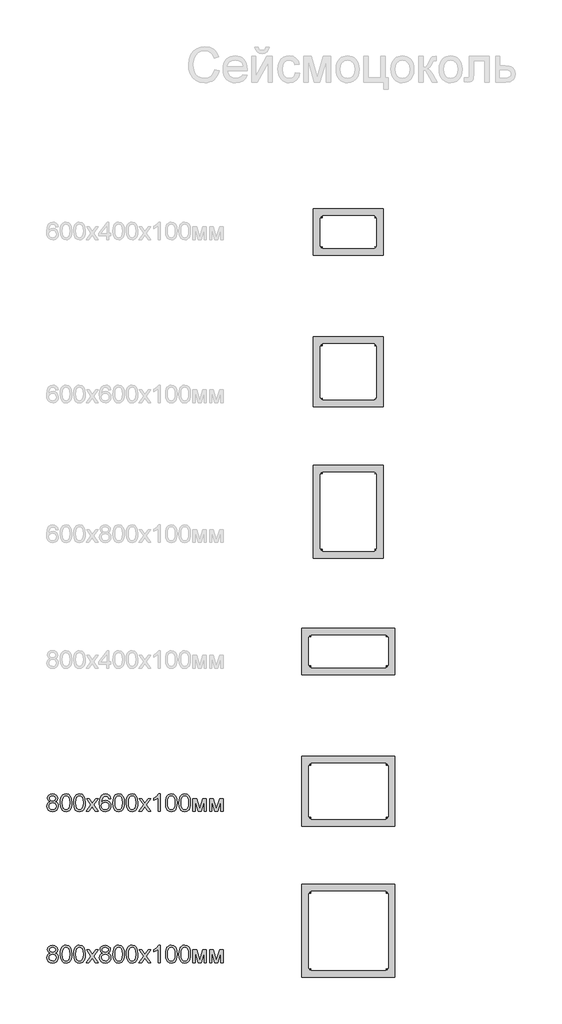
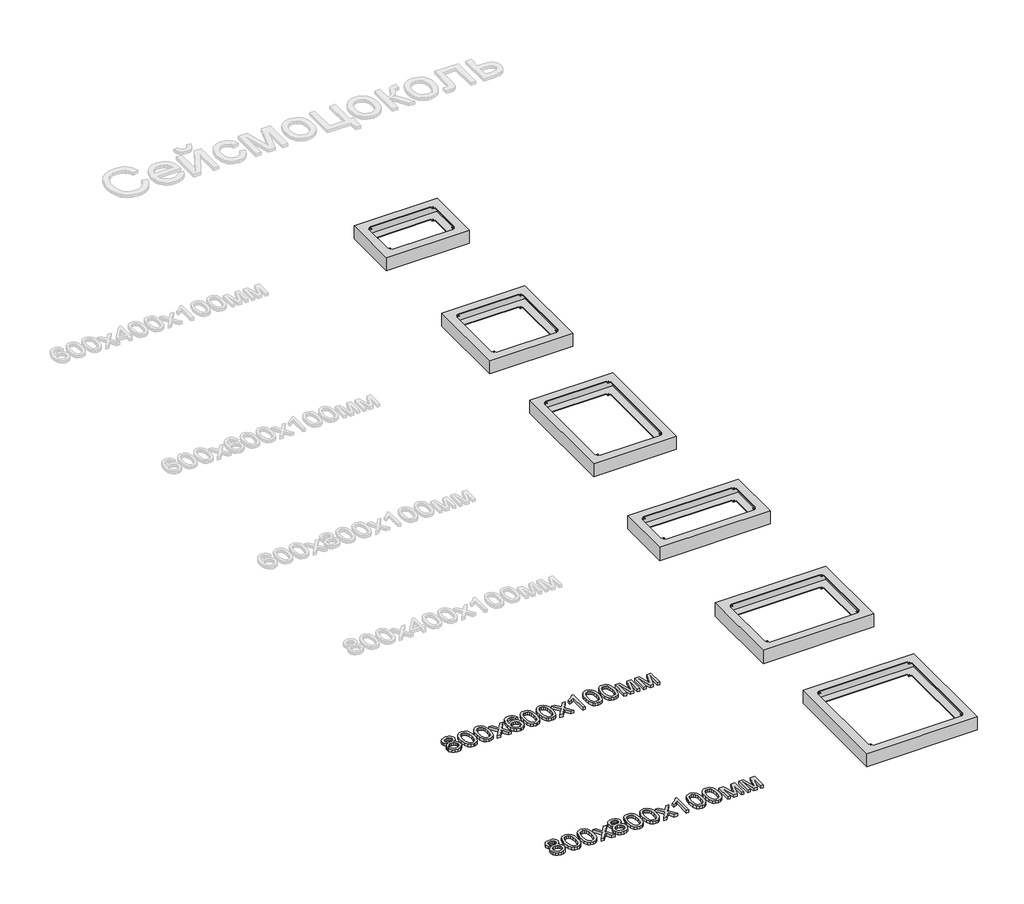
# One storey, part 1 of 3: 6 furniture elements, 2 proxies.
"""IFC4 building model written with IfcOpenShell, lengths in millimetres."""

from ifc_helpers import new_model, si_unit, origin, origin_with_axes, place, context, project, spatial, polyline, outline, extrude, transform, mapped, element, save
from components import furniture_c3a98835, furniture_9b10bd77, furniture_e79b8919, furniture_092bb3a8, furniture_30f0d79d, furniture_6f4ddcfb

model = new_model("IFC4")

# Units and contexts
model_context = context("Model", 3, world=origin())
ifc_project = project(units=[si_unit("LENGTHUNIT", "METRE", prefix="MILLI")], contexts=[model_context])

# Site, building, storey
site = spatial("IfcSite", under=ifc_project)
building = spatial("IfcBuilding", under=site)
storey = spatial("IfcBuildingStorey", under=building, Name="Этаж 01", Elevation=0.0)

# Proxies
placement = place(None, origin())
element("IfcBuildingElementProxy", 1, Name="150 мм Arial", ObjectType="150 мм Arial", at=placement, inside=storey, context=model_context, shape_type="SweptSolid", body=[
    extrude(outline(polyline([(-2956.1716896, -1958.5831547), (-2973.3333847, -1946.8845072), (-2978.9067969, -1928.6743485), (-2975.8717705, -1913.9498716), (-2966.7666911, -1901.7821746), (-2952.6124313, -1893.6151943), (-2934.4298637, -1890.8928676), (-2916.1369315, -1893.6795737), (-2901.7987307, -1902.039692), (-2892.5281045, -1914.4005271), (-2889.4378957, -1929.1893833), (-2894.9377315, -1946.9396895), (-2911.62118, -1958.5831547), (-2900.0282986, -1964.5566386), (-2891.5900054, -1973.3536168), (-2886.444256, -1984.551025), (-2884.7290062, -1997.725799), (-2888.1319146, -2015.7336226), (-2898.34064, -2030.6144493), (-2914.1043835, -2040.6024455), (-2934.1723463, -2043.9317776), (-2954.2403092, -2040.5886499), (-2970.0040527, -2030.559267), (-2980.212778, -2015.5358861), (-2983.6156865, -1997.2107642), (-2981.8314588, -1983.525554), (-2976.4787758, -1972.2683649), (-2967.8335489, -1963.8254731), (-2956.1716896, -1958.5831547)]), holes=[polyline([(-2960.0712388, -1929.2261715), (-2958.4019742, -1937.4483341), (-2953.3941806, -1944.0150277), (-2945.1950106, -1948.319247), (-2933.9516171, -1949.7539868), (-2922.9703396, -1948.3284441), (-2914.8953298, -1944.0518159), (-2909.9289228, -1937.7058515), (-2908.2734539, -1930.0723001), (-2909.9841051, -1922.1490416), (-2915.116059, -1915.5961436), (-2923.3014334, -1911.1953552), (-2934.1723463, -1909.7284257), (-2945.1122372, -1911.1631655), (-2953.283816, -1915.4673849), (-2958.3743831, -1921.7765611), (-2960.0712388, -1929.2261715)]), polyline([(-2964.7801283, -1996.5485766), (-2961.6347373, -2010.7304275), (-2950.5063069, -2021.3438231), (-2934.0251935, -2025.0962194), (-2921.204506, -2023.1234522), (-2911.5843918, -2017.2051506), (-2905.5695212, -2008.2426255), (-2903.5645643, -1997.1371878), (-2905.6339005, -1985.8432105), (-2911.8419092, -1976.6829489), (-2921.6827526, -1970.6128959), (-2934.6505929, -1968.589545), (-2947.291938, -1970.5853048), (-2956.8154831, -1976.5725843), (-2962.788967, -1985.558102), (-2964.7801283, -1996.5485766)])]), origin_with_axes(), (0.0, 0.0, 1.0), 20.0),
    extrude(outline(polyline([(-2868.2478928, -1967.4491108), (-2866.8637368, -1943.3298475), (-2862.7112688, -1924.0942176), (-2855.8318754, -1909.4479157), (-2846.2669436, -1899.0966361), (-2833.9474953, -1892.9438097), (-2818.8045526, -1890.8928676), (-2796.8052093, -1895.7489099), (-2781.6116829, -1909.7468198), (-2772.782515, -1932.0404687), (-2769.3612125, -1967.4491108), (-2770.7315729, -1991.4304183), (-2774.8426542, -2010.6200629), (-2781.6806608, -2025.2801604), (-2791.2317971, -2035.6728268), (-2803.5788366, -2041.8670399), (-2818.8045526, -2043.9317776), (-2838.3758748, -2040.3449281), (-2853.2383074, -2029.5843798), (-2864.4954964, -2004.0993545), (-2868.2478928, -1967.4491108)]), holes=[polyline([(-2849.4123346, -1967.4123226), (-2847.2050427, -1997.0406188), (-2840.5831667, -2014.1885183), (-2830.7239293, -2022.3692941), (-2818.8045526, -2025.0962194), (-2806.885176, -2022.3600971), (-2797.0259385, -2014.1517301), (-2790.4040626, -1996.9946335), (-2788.1967706, -1967.4123226), (-2790.3304862, -1938.4508125), (-2796.7316329, -1921.1695558), (-2806.5724763, -1912.5887082), (-2819.0252818, -1909.7284257), (-2830.8158998, -1912.2484174), (-2840.2888612, -1919.8083924), (-2847.1314663, -1938.165704), (-2849.4123346, -1967.4123226)])]), origin_with_axes(), (0.0, 0.0, 1.0), 20.0),
    extrude(outline(polyline([(-2752.8800991, -1967.4491108), (-2751.4959431, -1943.3298475), (-2747.3434751, -1924.0942176), (-2740.4640818, -1909.4479157), (-2730.8991499, -1899.0966361), (-2718.5797016, -1892.9438097), (-2703.4367589, -1890.8928676), (-2681.4374156, -1895.7489099), (-2666.2438892, -1909.7468198), (-2657.4147213, -1932.0404687), (-2653.9934188, -1967.4491108), (-2655.3637792, -1991.4304183), (-2659.4748605, -2010.6200629), (-2666.3128671, -2025.2801604), (-2675.8640034, -2035.6728268), (-2688.2110429, -2041.8670399), (-2703.4367589, -2043.9317776), (-2723.0080811, -2040.3449281), (-2737.8705137, -2029.5843798), (-2749.1277027, -2004.0993545), (-2752.8800991, -1967.4491108)]), holes=[polyline([(-2734.0445409, -1967.4123226), (-2731.837249, -1997.0406188), (-2725.2153731, -2014.1885183), (-2715.3561356, -2022.3692941), (-2703.4367589, -2025.0962194), (-2691.5173823, -2022.3600971), (-2681.6581448, -2014.1517301), (-2675.0362689, -1996.9946335), (-2672.8289769, -1967.4123226), (-2674.9626925, -1938.4508125), (-2681.3638392, -1921.1695558), (-2691.2046826, -1912.5887082), (-2703.6574881, -1909.7284257), (-2715.4481061, -1912.2484174), (-2724.9210675, -1919.8083924), (-2731.7636726, -1938.165704), (-2734.0445409, -1967.4123226)])]), origin_with_axes(), (0.0, 0.0, 1.0), 20.0),
    extrude(outline(polyline([(-2644.5756397, -2041.5773328), (-2604.3293494, -1985.9535751), (-2642.2211949, -1930.9184287), (-2619.559664, -1930.9184287), (-2601.2759289, -1957.4059323), (-2592.7410666, -1969.9139201), (-2585.3466385, -1959.6868007), (-2564.5245176, -1930.9184287), (-2541.8629867, -1930.9184287), (-2581.6678185, -1985.9535751), (-2543.3345146, -2041.5773328), (-2565.9960455, -2041.5773328), (-2589.0622466, -2008.1368594), (-2593.2928896, -2002.0300183), (-2621.9141088, -2041.5773328), (-2644.5756397, -2041.5773328)])), origin_with_axes(), (0.0, 0.0, 1.0), 20.0),
    extrude(outline(polyline([(-2435.0300553, -1930.9184287), (-2453.8656134, -1933.2728734), (-2461.0025241, -1917.5643122), (-2469.5465835, -1911.6873974), (-2479.8748705, -1909.7284257), (-2496.8710187, -1914.2901625), (-2509.7284944, -1931.4150693), (-2513.6326421, -1945.4451689), (-2515.0811774, -1964.9843014), (-2498.4713053, -1949.9563219), (-2477.8883077, -1945.0450973), (-2460.4874893, -1948.4020205), (-2445.8825741, -1958.4727901), (-2435.9773514, -1973.8594545), (-2432.6756105, -1993.1640622), (-2434.2299119, -2006.6515359), (-2438.8928162, -2019.1549252), (-2446.2780473, -2029.7591237), (-2455.999329, -2037.549025), (-2467.615203, -2042.3360894), (-2480.6842109, -2043.9317776), (-2502.0535563, -2039.7011346), (-2519.0726971, -2027.0092058), (-2530.2057259, -2004.6051923), (-2533.9167356, -1971.2382953), (-2529.7964572, -1933.7235289), (-2517.4356222, -1908.0729567), (-2500.5590357, -1895.1878899), (-2478.6976481, -1890.8928676), (-2462.1705495, -1893.550815), (-2448.9359947, -1901.5246572), (-2439.6653684, -1914.1889949), (-2435.0300553, -1930.9184287)]), holes=[polyline([(-2515.0811774, -1992.8697566), (-2510.7217758, -2009.1853231), (-2499.1334929, -2021.0311234), (-2482.1557388, -2025.0962194), (-2469.7259259, -2022.990095), (-2459.9540604, -2016.6717217), (-2453.6218916, -2006.7389079), (-2451.5111686, -1993.7894616), (-2453.5943004, -1981.3596487), (-2459.8436958, -1971.8820888), (-2469.7811082, -1965.8810138), (-2482.928291, -1963.8806554), (-2495.3397098, -1965.8810138), (-2505.7185806, -1971.8820888), (-2512.7405282, -1981.1297225), (-2515.0811774, -1992.8697566)])]), origin_with_axes(), (0.0, 0.0, 1.0), 20.0),
    extrude(outline(polyline([(-2416.1944971, -1967.4491108), (-2414.8103411, -1943.3298475), (-2410.6578731, -1924.0942176), (-2403.7784798, -1909.4479157), (-2394.2135479, -1899.0966361), (-2381.8940996, -1892.9438097), (-2366.751157, -1890.8928676), (-2344.7518136, -1895.7489099), (-2329.5582872, -1909.7468198), (-2320.7291194, -1932.0404687), (-2317.3078168, -1967.4491108), (-2318.6781772, -1991.4304183), (-2322.7892585, -2010.6200629), (-2329.6272651, -2025.2801604), (-2339.1784014, -2035.6728268), (-2351.5254409, -2041.8670399), (-2366.751157, -2043.9317776), (-2386.3224791, -2040.3449281), (-2401.1849117, -2029.5843798), (-2412.4421008, -2004.0993545), (-2416.1944971, -1967.4491108)]), holes=[polyline([(-2397.358939, -1967.4123226), (-2395.151647, -1997.0406188), (-2388.5297711, -2014.1885183), (-2378.6705336, -2022.3692941), (-2366.751157, -2025.0962194), (-2354.8317803, -2022.3600971), (-2344.9725428, -2014.1517301), (-2338.3506669, -1996.9946335), (-2336.143375, -1967.4123226), (-2338.2770905, -1938.4508125), (-2344.6782373, -1921.1695558), (-2354.5190806, -1912.5887082), (-2366.9718862, -1909.7284257), (-2378.7625041, -1912.2484174), (-2388.2354655, -1919.8083924), (-2395.0780706, -1938.165704), (-2397.358939, -1967.4123226)])]), origin_with_axes(), (0.0, 0.0, 1.0), 20.0),
    extrude(outline(polyline([(-2300.8267034, -1967.4491108), (-2299.4425474, -1943.3298475), (-2295.2900794, -1924.0942176), (-2288.4106861, -1909.4479157), (-2278.8457542, -1899.0966361), (-2266.5263059, -1892.9438097), (-2251.3833633, -1890.8928676), (-2229.38402, -1895.7489099), (-2214.1904936, -1909.7468198), (-2205.3613257, -1932.0404687), (-2201.9400231, -1967.4491108), (-2203.3103836, -1991.4304183), (-2207.4214648, -2010.6200629), (-2214.2594714, -2025.2801604), (-2223.8106077, -2035.6728268), (-2236.1576472, -2041.8670399), (-2251.3833633, -2043.9317776), (-2270.9546854, -2040.3449281), (-2285.817118, -2029.5843798), (-2297.0743071, -2004.0993545), (-2300.8267034, -1967.4491108)]), holes=[polyline([(-2281.9911453, -1967.4123226), (-2279.7838533, -1997.0406188), (-2273.1619774, -2014.1885183), (-2263.3027399, -2022.3692941), (-2251.3833633, -2025.0962194), (-2239.4639866, -2022.3600971), (-2229.6047492, -2014.1517301), (-2222.9828732, -1996.9946335), (-2220.7755813, -1967.4123226), (-2222.9092968, -1938.4508125), (-2229.3104436, -1921.1695558), (-2239.1512869, -1912.5887082), (-2251.6040925, -1909.7284257), (-2263.3947104, -1912.2484174), (-2272.8676718, -1919.8083924), (-2279.7102769, -1938.165704), (-2281.9911453, -1967.4123226)])]), origin_with_axes(), (0.0, 0.0, 1.0), 20.0),
    extrude(outline(polyline([(-2192.522244, -2041.5773328), (-2152.2759538, -1985.9535751), (-2190.1677993, -1930.9184287), (-2167.5062684, -1930.9184287), (-2149.2225332, -1957.4059323), (-2140.6876709, -1969.9139201), (-2133.2932428, -1959.6868007), (-2112.4711219, -1930.9184287), (-2089.809591, -1930.9184287), (-2129.6144229, -1985.9535751), (-2091.281119, -2041.5773328), (-2113.9426499, -2041.5773328), (-2137.008851, -2008.1368594), (-2141.2394939, -2002.0300183), (-2169.8607131, -2041.5773328), (-2192.522244, -2041.5773328)])), origin_with_axes(), (0.0, 0.0, 1.0), 20.0),
    extrude(outline(polyline([(-2008.8755521, -2041.5773328), (-2027.7111102, -2041.5773328), (-2027.7111102, -1924.1493999), (-2045.553387, -1936.8597229), (-2065.3822265, -1946.3694724), (-2065.3822265, -1928.5639839), (-2037.7726828, -1910.9424363), (-2021.0156579, -1890.8928676), (-2008.8755521, -1890.8928676), (-2008.8755521, -2041.5773328)])), origin_with_axes(), (0.0, 0.0, 1.0), 20.0),
    extrude(outline(polyline([(-1964.1411014, -1967.4491108), (-1962.7569454, -1943.3298475), (-1958.6044774, -1924.0942176), (-1951.7250841, -1909.4479157), (-1942.1601522, -1899.0966361), (-1929.8407039, -1892.9438097), (-1914.6977613, -1890.8928676), (-1892.698418, -1895.7489099), (-1877.5048916, -1909.7468198), (-1868.6757237, -1932.0404687), (-1865.2544211, -1967.4491108), (-1866.6247816, -1991.4304183), (-1870.7358629, -2010.6200629), (-1877.5738694, -2025.2801604), (-1887.1250057, -2035.6728268), (-1899.4720452, -2041.8670399), (-1914.6977613, -2043.9317776), (-1934.2690834, -2040.3449281), (-1949.131516, -2029.5843798), (-1960.3887051, -2004.0993545), (-1964.1411014, -1967.4491108)]), holes=[polyline([(-1945.3055433, -1967.4123226), (-1943.0982513, -1997.0406188), (-1936.4763754, -2014.1885183), (-1926.6171379, -2022.3692941), (-1914.6977613, -2025.0962194), (-1902.7783846, -2022.3600971), (-1892.9191472, -2014.1517301), (-1886.2972713, -1996.9946335), (-1884.0899793, -1967.4123226), (-1886.2236949, -1938.4508125), (-1892.6248416, -1921.1695558), (-1902.4656849, -1912.5887082), (-1914.9184905, -1909.7284257), (-1926.7091084, -1912.2484174), (-1936.1820698, -1919.8083924), (-1943.0246749, -1938.165704), (-1945.3055433, -1967.4123226)])]), origin_with_axes(), (0.0, 0.0, 1.0), 20.0),
    extrude(outline(polyline([(-1848.7733078, -1967.4491108), (-1847.3891517, -1943.3298475), (-1843.2366837, -1924.0942176), (-1836.3572904, -1909.4479157), (-1826.7923585, -1899.0966361), (-1814.4729102, -1892.9438097), (-1799.3299676, -1890.8928676), (-1777.3306243, -1895.7489099), (-1762.1370979, -1909.7468198), (-1753.30793, -1932.0404687), (-1749.8866274, -1967.4491108), (-1751.2569879, -1991.4304183), (-1755.3680692, -2010.6200629), (-1762.2060758, -2025.2801604), (-1771.7572121, -2035.6728268), (-1784.1042515, -2041.8670399), (-1799.3299676, -2043.9317776), (-1818.9012897, -2040.3449281), (-1833.7637223, -2029.5843798), (-1845.0209114, -2004.0993545), (-1848.7733078, -1967.4491108)]), holes=[polyline([(-1829.9377496, -1967.4123226), (-1827.7304576, -1997.0406188), (-1821.1085817, -2014.1885183), (-1811.2493442, -2022.3692941), (-1799.3299676, -2025.0962194), (-1787.410591, -2022.3600971), (-1777.5513535, -2014.1517301), (-1770.9294776, -1996.9946335), (-1768.7221856, -1967.4123226), (-1770.8559012, -1938.4508125), (-1777.2570479, -1921.1695558), (-1787.0978913, -1912.5887082), (-1799.5506968, -1909.7284257), (-1811.3413147, -1912.2484174), (-1820.8142761, -1919.8083924), (-1827.6568812, -1938.165704), (-1829.9377496, -1967.4123226)])]), origin_with_axes(), (0.0, 0.0, 1.0), 20.0),
    extrude(outline(polyline([(-1728.6966245, -1930.9184287), (-1696.2862208, -1930.9184287), (-1671.3070333, -2019.5044131), (-1644.3780712, -1930.9184287), (-1613.3288308, -1930.9184287), (-1613.3288308, -2041.5773328), (-1632.164389, -2041.5773328), (-1632.164389, -1952.4763136), (-1659.2405038, -2041.5773328), (-1683.9621739, -2041.5773328), (-1709.8610664, -1948.2088824), (-1709.8610664, -2041.5773328), (-1728.6966245, -2041.5773328), (-1728.6966245, -1930.9184287)])), origin_with_axes(), (0.0, 0.0, 1.0), 20.0),
    extrude(outline(polyline([(-1585.0754936, -1930.9184287), (-1552.6650898, -1930.9184287), (-1527.6859024, -2019.5044131), (-1500.7569403, -1930.9184287), (-1469.7076999, -1930.9184287), (-1469.7076999, -2041.5773328), (-1488.5432581, -2041.5773328), (-1488.5432581, -1952.4763136), (-1515.6193729, -2041.5773328), (-1540.341043, -2041.5773328), (-1566.2399355, -1948.2088824), (-1566.2399355, -2041.5773328), (-1585.0754936, -2041.5773328), (-1585.0754936, -1930.9184287)])), origin_with_axes(), (0.0, 0.0, 1.0), 20.0),
])
element("IfcBuildingElementProxy", 2, Name="150 мм Arial", ObjectType="150 мм Arial", at=placement, inside=storey, context=model_context, shape_type="SweptSolid", body=[
    extrude(outline(polyline([(-2956.1716896, -3258.5831547), (-2973.3333847, -3246.8845072), (-2978.9067969, -3228.6743485), (-2975.8717705, -3213.9498716), (-2966.7666911, -3201.7821746), (-2952.6124313, -3193.6151943), (-2934.4298637, -3190.8928676), (-2916.1369315, -3193.6795737), (-2901.7987307, -3202.039692), (-2892.5281045, -3214.4005271), (-2889.4378957, -3229.1893833), (-2894.9377315, -3246.9396895), (-2911.62118, -3258.5831547), (-2900.0282986, -3264.5566386), (-2891.5900054, -3273.3536168), (-2886.444256, -3284.551025), (-2884.7290062, -3297.725799), (-2888.1319146, -3315.7336226), (-2898.34064, -3330.6144493), (-2914.1043835, -3340.6024455), (-2934.1723463, -3343.9317776), (-2954.2403092, -3340.5886499), (-2970.0040527, -3330.559267), (-2980.212778, -3315.5358861), (-2983.6156865, -3297.2107642), (-2981.8314588, -3283.525554), (-2976.4787758, -3272.2683649), (-2967.8335489, -3263.8254731), (-2956.1716896, -3258.5831547)]), holes=[polyline([(-2960.0712388, -3229.2261715), (-2958.4019742, -3237.4483341), (-2953.3941806, -3244.0150277), (-2945.1950106, -3248.319247), (-2933.9516171, -3249.7539868), (-2922.9703396, -3248.3284441), (-2914.8953298, -3244.0518159), (-2909.9289228, -3237.7058515), (-2908.2734539, -3230.0723001), (-2909.9841051, -3222.1490416), (-2915.116059, -3215.5961436), (-2923.3014334, -3211.1953552), (-2934.1723463, -3209.7284257), (-2945.1122372, -3211.1631655), (-2953.283816, -3215.4673849), (-2958.3743831, -3221.7765611), (-2960.0712388, -3229.2261715)]), polyline([(-2964.7801283, -3296.5485766), (-2961.6347373, -3310.7304275), (-2950.5063069, -3321.3438231), (-2934.0251935, -3325.0962194), (-2921.204506, -3323.1234522), (-2911.5843918, -3317.2051506), (-2905.5695212, -3308.2426255), (-2903.5645643, -3297.1371878), (-2905.6339005, -3285.8432105), (-2911.8419092, -3276.6829489), (-2921.6827526, -3270.6128959), (-2934.6505929, -3268.589545), (-2947.291938, -3270.5853048), (-2956.8154831, -3276.5725843), (-2962.788967, -3285.558102), (-2964.7801283, -3296.5485766)])]), origin_with_axes(), (0.0, 0.0, 1.0), 20.0),
    extrude(outline(polyline([(-2868.2478928, -3267.4491108), (-2866.8637368, -3243.3298475), (-2862.7112688, -3224.0942176), (-2855.8318754, -3209.4479157), (-2846.2669436, -3199.0966361), (-2833.9474953, -3192.9438097), (-2818.8045526, -3190.8928676), (-2796.8052093, -3195.7489099), (-2781.6116829, -3209.7468198), (-2772.782515, -3232.0404687), (-2769.3612125, -3267.4491108), (-2770.7315729, -3291.4304183), (-2774.8426542, -3310.6200629), (-2781.6806608, -3325.2801604), (-2791.2317971, -3335.6728268), (-2803.5788366, -3341.8670399), (-2818.8045526, -3343.9317776), (-2838.3758748, -3340.3449281), (-2853.2383074, -3329.5843798), (-2864.4954964, -3304.0993545), (-2868.2478928, -3267.4491108)]), holes=[polyline([(-2849.4123346, -3267.4123226), (-2847.2050427, -3297.0406188), (-2840.5831667, -3314.1885183), (-2830.7239293, -3322.3692941), (-2818.8045526, -3325.0962194), (-2806.885176, -3322.3600971), (-2797.0259385, -3314.1517301), (-2790.4040626, -3296.9946335), (-2788.1967706, -3267.4123226), (-2790.3304862, -3238.4508125), (-2796.7316329, -3221.1695558), (-2806.5724763, -3212.5887082), (-2819.0252818, -3209.7284257), (-2830.8158998, -3212.2484174), (-2840.2888612, -3219.8083924), (-2847.1314663, -3238.165704), (-2849.4123346, -3267.4123226)])]), origin_with_axes(), (0.0, 0.0, 1.0), 20.0),
    extrude(outline(polyline([(-2752.8800991, -3267.4491108), (-2751.4959431, -3243.3298475), (-2747.3434751, -3224.0942176), (-2740.4640818, -3209.4479157), (-2730.8991499, -3199.0966361), (-2718.5797016, -3192.9438097), (-2703.4367589, -3190.8928676), (-2681.4374156, -3195.7489099), (-2666.2438892, -3209.7468198), (-2657.4147213, -3232.0404687), (-2653.9934188, -3267.4491108), (-2655.3637792, -3291.4304183), (-2659.4748605, -3310.6200629), (-2666.3128671, -3325.2801604), (-2675.8640034, -3335.6728268), (-2688.2110429, -3341.8670399), (-2703.4367589, -3343.9317776), (-2723.0080811, -3340.3449281), (-2737.8705137, -3329.5843798), (-2749.1277027, -3304.0993545), (-2752.8800991, -3267.4491108)]), holes=[polyline([(-2734.0445409, -3267.4123226), (-2731.837249, -3297.0406188), (-2725.2153731, -3314.1885183), (-2715.3561356, -3322.3692941), (-2703.4367589, -3325.0962194), (-2691.5173823, -3322.3600971), (-2681.6581448, -3314.1517301), (-2675.0362689, -3296.9946335), (-2672.8289769, -3267.4123226), (-2674.9626925, -3238.4508125), (-2681.3638392, -3221.1695558), (-2691.2046826, -3212.5887082), (-2703.6574881, -3209.7284257), (-2715.4481061, -3212.2484174), (-2724.9210675, -3219.8083924), (-2731.7636726, -3238.165704), (-2734.0445409, -3267.4123226)])]), origin_with_axes(), (0.0, 0.0, 1.0), 20.0),
    extrude(outline(polyline([(-2644.5756397, -3341.5773328), (-2604.3293494, -3285.9535751), (-2642.2211949, -3230.9184287), (-2619.559664, -3230.9184287), (-2601.2759289, -3257.4059323), (-2592.7410666, -3269.9139201), (-2585.3466385, -3259.6868007), (-2564.5245176, -3230.9184287), (-2541.8629867, -3230.9184287), (-2581.6678185, -3285.9535751), (-2543.3345146, -3341.5773328), (-2565.9960455, -3341.5773328), (-2589.0622466, -3308.1368594), (-2593.2928896, -3302.0300183), (-2621.9141088, -3341.5773328), (-2644.5756397, -3341.5773328)])), origin_with_axes(), (0.0, 0.0, 1.0), 20.0),
    extrude(outline(polyline([(-2504.118294, -3258.5831547), (-2521.279989, -3246.8845072), (-2526.8534013, -3228.6743485), (-2523.8183748, -3213.9498716), (-2514.7132954, -3201.7821746), (-2500.5590357, -3193.6151943), (-2482.376468, -3190.8928676), (-2464.0835358, -3193.6795737), (-2449.7453351, -3202.039692), (-2440.4747088, -3214.4005271), (-2437.3845, -3229.1893833), (-2442.8843359, -3246.9396895), (-2459.5677843, -3258.5831547), (-2447.974903, -3264.5566386), (-2439.5366097, -3273.3536168), (-2434.3908603, -3284.551025), (-2432.6756105, -3297.725799), (-2436.078519, -3315.7336226), (-2446.2872443, -3330.6144493), (-2462.0509878, -3340.6024455), (-2482.1189506, -3343.9317776), (-2502.1869135, -3340.5886499), (-2517.950657, -3330.559267), (-2528.1593823, -3315.5358861), (-2531.5622908, -3297.2107642), (-2529.7780631, -3283.525554), (-2524.4253801, -3272.2683649), (-2515.7801532, -3263.8254731), (-2504.118294, -3258.5831547)]), holes=[polyline([(-2512.7267326, -3296.5485766), (-2509.5813416, -3310.7304275), (-2498.4529112, -3321.3438231), (-2481.9717978, -3325.0962194), (-2469.1511103, -3323.1234522), (-2459.5309961, -3317.2051506), (-2453.5161255, -3308.2426255), (-2451.5111686, -3297.1371878), (-2453.5805049, -3285.8432105), (-2459.7885135, -3276.6829489), (-2469.6293569, -3270.6128959), (-2482.5971972, -3268.589545), (-2495.2385423, -3270.5853048), (-2504.7620875, -3276.5725843), (-2510.7355713, -3285.558102), (-2512.7267326, -3296.5485766)]), polyline([(-2508.0178431, -3229.2261715), (-2506.3485786, -3237.4483341), (-2501.3407849, -3244.0150277), (-2493.1416149, -3248.319247), (-2481.8982215, -3249.7539868), (-2470.9169439, -3248.3284441), (-2462.8419341, -3244.0518159), (-2457.8755272, -3237.7058515), (-2456.2200582, -3230.0723001), (-2457.9307095, -3222.1490416), (-2463.0626633, -3215.5961436), (-2471.2480377, -3211.1953552), (-2482.1189506, -3209.7284257), (-2493.0588415, -3211.1631655), (-2501.2304203, -3215.4673849), (-2506.3209874, -3221.7765611), (-2508.0178431, -3229.2261715)])]), origin_with_axes(), (0.0, 0.0, 1.0), 20.0),
    extrude(outline(polyline([(-2416.1944971, -3267.4491108), (-2414.8103411, -3243.3298475), (-2410.6578731, -3224.0942176), (-2403.7784798, -3209.4479157), (-2394.2135479, -3199.0966361), (-2381.8940996, -3192.9438097), (-2366.751157, -3190.8928676), (-2344.7518136, -3195.7489099), (-2329.5582872, -3209.7468198), (-2320.7291194, -3232.0404687), (-2317.3078168, -3267.4491108), (-2318.6781772, -3291.4304183), (-2322.7892585, -3310.6200629), (-2329.6272651, -3325.2801604), (-2339.1784014, -3335.6728268), (-2351.5254409, -3341.8670399), (-2366.751157, -3343.9317776), (-2386.3224791, -3340.3449281), (-2401.1849117, -3329.5843798), (-2412.4421008, -3304.0993545), (-2416.1944971, -3267.4491108)]), holes=[polyline([(-2397.358939, -3267.4123226), (-2395.151647, -3297.0406188), (-2388.5297711, -3314.1885183), (-2378.6705336, -3322.3692941), (-2366.751157, -3325.0962194), (-2354.8317803, -3322.3600971), (-2344.9725428, -3314.1517301), (-2338.3506669, -3296.9946335), (-2336.143375, -3267.4123226), (-2338.2770905, -3238.4508125), (-2344.6782373, -3221.1695558), (-2354.5190806, -3212.5887082), (-2366.9718862, -3209.7284257), (-2378.7625041, -3212.2484174), (-2388.2354655, -3219.8083924), (-2395.0780706, -3238.165704), (-2397.358939, -3267.4123226)])]), origin_with_axes(), (0.0, 0.0, 1.0), 20.0),
    extrude(outline(polyline([(-2300.8267034, -3267.4491108), (-2299.4425474, -3243.3298475), (-2295.2900794, -3224.0942176), (-2288.4106861, -3209.4479157), (-2278.8457542, -3199.0966361), (-2266.5263059, -3192.9438097), (-2251.3833633, -3190.8928676), (-2229.38402, -3195.7489099), (-2214.1904936, -3209.7468198), (-2205.3613257, -3232.0404687), (-2201.9400231, -3267.4491108), (-2203.3103836, -3291.4304183), (-2207.4214648, -3310.6200629), (-2214.2594714, -3325.2801604), (-2223.8106077, -3335.6728268), (-2236.1576472, -3341.8670399), (-2251.3833633, -3343.9317776), (-2270.9546854, -3340.3449281), (-2285.817118, -3329.5843798), (-2297.0743071, -3304.0993545), (-2300.8267034, -3267.4491108)]), holes=[polyline([(-2281.9911453, -3267.4123226), (-2279.7838533, -3297.0406188), (-2273.1619774, -3314.1885183), (-2263.3027399, -3322.3692941), (-2251.3833633, -3325.0962194), (-2239.4639866, -3322.3600971), (-2229.6047492, -3314.1517301), (-2222.9828732, -3296.9946335), (-2220.7755813, -3267.4123226), (-2222.9092968, -3238.4508125), (-2229.3104436, -3221.1695558), (-2239.1512869, -3212.5887082), (-2251.6040925, -3209.7284257), (-2263.3947104, -3212.2484174), (-2272.8676718, -3219.8083924), (-2279.7102769, -3238.165704), (-2281.9911453, -3267.4123226)])]), origin_with_axes(), (0.0, 0.0, 1.0), 20.0),
    extrude(outline(polyline([(-2192.522244, -3341.5773328), (-2152.2759538, -3285.9535751), (-2190.1677993, -3230.9184287), (-2167.5062684, -3230.9184287), (-2149.2225332, -3257.4059323), (-2140.6876709, -3269.9139201), (-2133.2932428, -3259.6868007), (-2112.4711219, -3230.9184287), (-2089.809591, -3230.9184287), (-2129.6144229, -3285.9535751), (-2091.281119, -3341.5773328), (-2113.9426499, -3341.5773328), (-2137.008851, -3308.1368594), (-2141.2394939, -3302.0300183), (-2169.8607131, -3341.5773328), (-2192.522244, -3341.5773328)])), origin_with_axes(), (0.0, 0.0, 1.0), 20.0),
    extrude(outline(polyline([(-2008.8755521, -3341.5773328), (-2027.7111102, -3341.5773328), (-2027.7111102, -3224.1493999), (-2045.553387, -3236.8597229), (-2065.3822265, -3246.3694724), (-2065.3822265, -3228.5639839), (-2037.7726828, -3210.9424363), (-2021.0156579, -3190.8928676), (-2008.8755521, -3190.8928676), (-2008.8755521, -3341.5773328)])), origin_with_axes(), (0.0, 0.0, 1.0), 20.0),
    extrude(outline(polyline([(-1964.1411014, -3267.4491108), (-1962.7569454, -3243.3298475), (-1958.6044774, -3224.0942176), (-1951.7250841, -3209.4479157), (-1942.1601522, -3199.0966361), (-1929.8407039, -3192.9438097), (-1914.6977613, -3190.8928676), (-1892.698418, -3195.7489099), (-1877.5048916, -3209.7468198), (-1868.6757237, -3232.0404687), (-1865.2544211, -3267.4491108), (-1866.6247816, -3291.4304183), (-1870.7358629, -3310.6200629), (-1877.5738694, -3325.2801604), (-1887.1250057, -3335.6728268), (-1899.4720452, -3341.8670399), (-1914.6977613, -3343.9317776), (-1934.2690834, -3340.3449281), (-1949.131516, -3329.5843798), (-1960.3887051, -3304.0993545), (-1964.1411014, -3267.4491108)]), holes=[polyline([(-1945.3055433, -3267.4123226), (-1943.0982513, -3297.0406188), (-1936.4763754, -3314.1885183), (-1926.6171379, -3322.3692941), (-1914.6977613, -3325.0962194), (-1902.7783846, -3322.3600971), (-1892.9191472, -3314.1517301), (-1886.2972713, -3296.9946335), (-1884.0899793, -3267.4123226), (-1886.2236949, -3238.4508125), (-1892.6248416, -3221.1695558), (-1902.4656849, -3212.5887082), (-1914.9184905, -3209.7284257), (-1926.7091084, -3212.2484174), (-1936.1820698, -3219.8083924), (-1943.0246749, -3238.165704), (-1945.3055433, -3267.4123226)])]), origin_with_axes(), (0.0, 0.0, 1.0), 20.0),
    extrude(outline(polyline([(-1848.7733078, -3267.4491108), (-1847.3891517, -3243.3298475), (-1843.2366837, -3224.0942176), (-1836.3572904, -3209.4479157), (-1826.7923585, -3199.0966361), (-1814.4729102, -3192.9438097), (-1799.3299676, -3190.8928676), (-1777.3306243, -3195.7489099), (-1762.1370979, -3209.7468198), (-1753.30793, -3232.0404687), (-1749.8866274, -3267.4491108), (-1751.2569879, -3291.4304183), (-1755.3680692, -3310.6200629), (-1762.2060758, -3325.2801604), (-1771.7572121, -3335.6728268), (-1784.1042515, -3341.8670399), (-1799.3299676, -3343.9317776), (-1818.9012897, -3340.3449281), (-1833.7637223, -3329.5843798), (-1845.0209114, -3304.0993545), (-1848.7733078, -3267.4491108)]), holes=[polyline([(-1829.9377496, -3267.4123226), (-1827.7304576, -3297.0406188), (-1821.1085817, -3314.1885183), (-1811.2493442, -3322.3692941), (-1799.3299676, -3325.0962194), (-1787.410591, -3322.3600971), (-1777.5513535, -3314.1517301), (-1770.9294776, -3296.9946335), (-1768.7221856, -3267.4123226), (-1770.8559012, -3238.4508125), (-1777.2570479, -3221.1695558), (-1787.0978913, -3212.5887082), (-1799.5506968, -3209.7284257), (-1811.3413147, -3212.2484174), (-1820.8142761, -3219.8083924), (-1827.6568812, -3238.165704), (-1829.9377496, -3267.4123226)])]), origin_with_axes(), (0.0, 0.0, 1.0), 20.0),
    extrude(outline(polyline([(-1728.6966245, -3230.9184287), (-1696.2862208, -3230.9184287), (-1671.3070333, -3319.5044131), (-1644.3780712, -3230.9184287), (-1613.3288308, -3230.9184287), (-1613.3288308, -3341.5773328), (-1632.164389, -3341.5773328), (-1632.164389, -3252.4763136), (-1659.2405038, -3341.5773328), (-1683.9621739, -3341.5773328), (-1709.8610664, -3248.2088824), (-1709.8610664, -3341.5773328), (-1728.6966245, -3341.5773328), (-1728.6966245, -3230.9184287)])), origin_with_axes(), (0.0, 0.0, 1.0), 20.0),
    extrude(outline(polyline([(-1585.0754936, -3230.9184287), (-1552.6650898, -3230.9184287), (-1527.6859024, -3319.5044131), (-1500.7569403, -3230.9184287), (-1469.7076999, -3230.9184287), (-1469.7076999, -3341.5773328), (-1488.5432581, -3341.5773328), (-1488.5432581, -3252.4763136), (-1515.6193729, -3341.5773328), (-1540.341043, -3341.5773328), (-1566.2399355, -3248.2088824), (-1566.2399355, -3341.5773328), (-1585.0754936, -3341.5773328), (-1585.0754936, -3230.9184287)])), origin_with_axes(), (0.0, 0.0, 1.0), 20.0),
])

# Furniture
furniture_shape = furniture_c3a98835(model_context)
element("IfcFurniture", 3, ObjectType="НВО_КНС_Сейсмоцоколь_DKC : Сейсмоцоколь 600x400x100мм", at=placement, inside=storey, context=model_context, shape_type="MappedRepresentation", body=[
    mapped(furniture_shape, transform((-393.7510946, 2932.5700626, 0.0), x_axis=(1.0, 0.0, 0.0), y_axis=(0.0, 1.0, 0.0), z_axis=(0.0, 0.0, 1.0))),
])
furniture_2_shape = furniture_9b10bd77(model_context)
element("IfcFurniture", 4, ObjectType="НВО_КНС_Сейсмоцоколь_DKC : Сейсмоцоколь 600x600x100мм", at=placement, inside=storey, context=model_context, shape_type="MappedRepresentation", body=[
    mapped(furniture_2_shape, transform((-393.7510946, 1732.5700626, 0.0), x_axis=(1.0, 0.0, 0.0), y_axis=(0.0, 1.0, 0.0), z_axis=(0.0, 0.0, 1.0))),
])
furniture_3_shape = furniture_e79b8919(model_context)
element("IfcFurniture", 5, ObjectType="НВО_КНС_Сейсмоцоколь_DKC : Сейсмоцоколь 600x800x100мм", at=placement, inside=storey, context=model_context, shape_type="MappedRepresentation", body=[
    mapped(furniture_3_shape, transform((-393.7510946, 532.5700626, 0.0), x_axis=(1.0, 0.0, 0.0), y_axis=(0.0, 1.0, 0.0), z_axis=(0.0, 0.0, 1.0))),
])
furniture_4_shape = furniture_092bb3a8(model_context)
element("IfcFurniture", 6, ObjectType="НВО_КНС_Сейсмоцоколь_DKC : Сейсмоцоколь 800x400x100мм", at=placement, inside=storey, context=model_context, shape_type="MappedRepresentation", body=[
    mapped(furniture_4_shape, transform((-393.7510946, -667.4299374, 0.0), x_axis=(1.0, 0.0, 0.0), y_axis=(0.0, 1.0, 0.0), z_axis=(0.0, 0.0, 1.0))),
])
furniture_5_shape = furniture_30f0d79d(model_context)
element("IfcFurniture", 7, ObjectType="НВО_КНС_Сейсмоцоколь_DKC : Сейсмоцоколь 800x600x100мм", at=placement, inside=storey, context=model_context, shape_type="MappedRepresentation", body=[
    mapped(furniture_5_shape, transform((-393.7510946, -1867.4299374, 0.0), x_axis=(1.0, 0.0, 0.0), y_axis=(0.0, 1.0, 0.0), z_axis=(0.0, 0.0, 1.0))),
])
furniture_6_shape = furniture_6f4ddcfb(model_context)
element("IfcFurniture", 8, ObjectType="НВО_КНС_Сейсмоцоколь_DKC : Сейсмоцоколь 800x800x100мм", at=placement, inside=storey, context=model_context, shape_type="MappedRepresentation", body=[
    mapped(furniture_6_shape, transform((-393.7510946, -3067.4299374, 0.0), x_axis=(1.0, 0.0, 0.0), y_axis=(0.0, 1.0, 0.0), z_axis=(0.0, 0.0, 1.0))),
])

save(model, "model.ifc")
